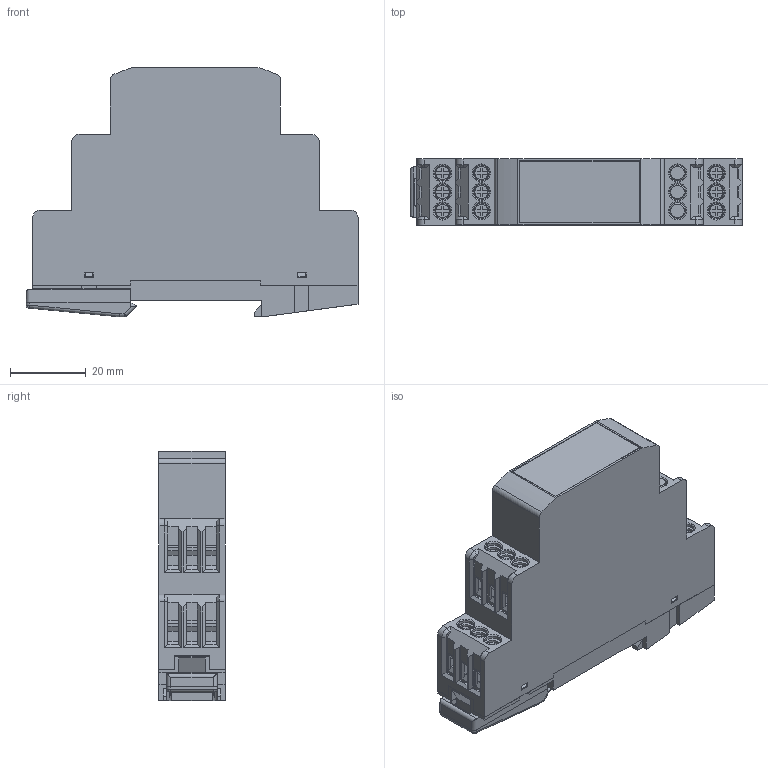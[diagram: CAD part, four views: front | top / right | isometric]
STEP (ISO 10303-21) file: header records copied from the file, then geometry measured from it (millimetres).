
FILE_DESCRIPTION (( 'STEP AP214' ), '1' );
FILE_NAME ('MIR_OD-MIR.step', '2011-08-05T12:08:03', ( 'Radek Veselý' ), ( 'Siemens and Partners' ), 'SwSTEP 2.0', 'SolidWorks 2006303', '' );
FILE_SCHEMA (( 'AUTOMOTIVE_DESIGN' ));
Length unit declared in the file: millimetre
Products named in the file (1): MIR_OD-MIR
Bounding box: 87.8 x 17.5 x 66.04 mm (x, y, z)
Volume: 19865.9 mm3; surface area: 32238.4 mm2
Topology: 15 solids, 15 shells, 1039 faces, 2836 edges, 1822 vertices
Faces by surface type: plane 768, cylinder 182, bspline 33, torus 28, cone 24, sphere 4
Entity records: 44450 total; most frequent: CARTESIAN_POINT 6705, ORIENTED_EDGE 5648, DIRECTION 5137, EDGE_CURVE 2824, VECTOR 2269, LINE 2269, VERTEX_POINT 1822, AXIS2_PLACEMENT_3D 1434
